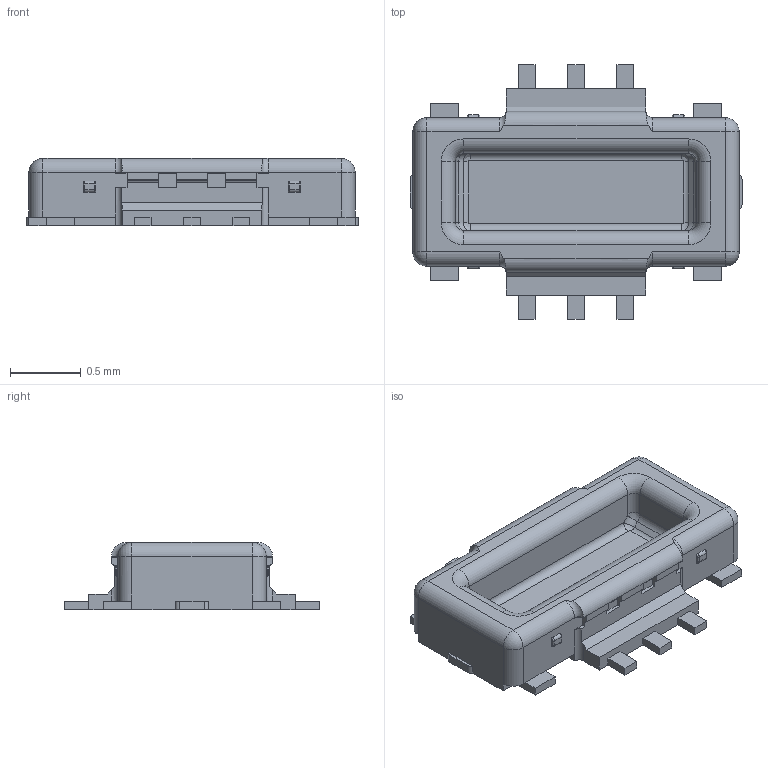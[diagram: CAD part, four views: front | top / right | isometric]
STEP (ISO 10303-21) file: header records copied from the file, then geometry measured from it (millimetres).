
FILE_DESCRIPTION(('CATIA V5 STEP Exchange'),'2;1');
FILE_NAME('H:\华灿---系列图\BtoB--板对板----(HCTL)\锦善-提供--替代BK13C-BTB\3d\NDP\HC-PBB13C-06DP-0.35V-0.6-05.stp','2026-01-06T03:35:03+00:00',('none'),('none'),'CATIA Version 5 Release 20 GA (IN-10)','CATIA V5 STEP AP203','none');
FILE_SCHEMA(('CONFIG_CONTROL_DESIGN'));
Length unit declared in the file: millimetre
Products named in the file (1): B09P_16PIN_20240426
Bounding box: 2.35 x 1.8 x 0.47 mm (x, y, z)
Volume: 0.9 mm3; surface area: 10.7 mm2
Topology: 1 solids, 1 shells, 243 faces, 642 edges, 402 vertices
Faces by surface type: plane 143, cylinder 64, bspline 24, torus 8, sphere 4
Entity records: 8149 total; most frequent: CARTESIAN_POINT 2666, ORIENTED_EDGE 1276, DIRECTION 889, EDGE_CURVE 638, VECTOR 454, LINE 454, VERTEX_POINT 402, AXIS2_PLACEMENT_3D 258
